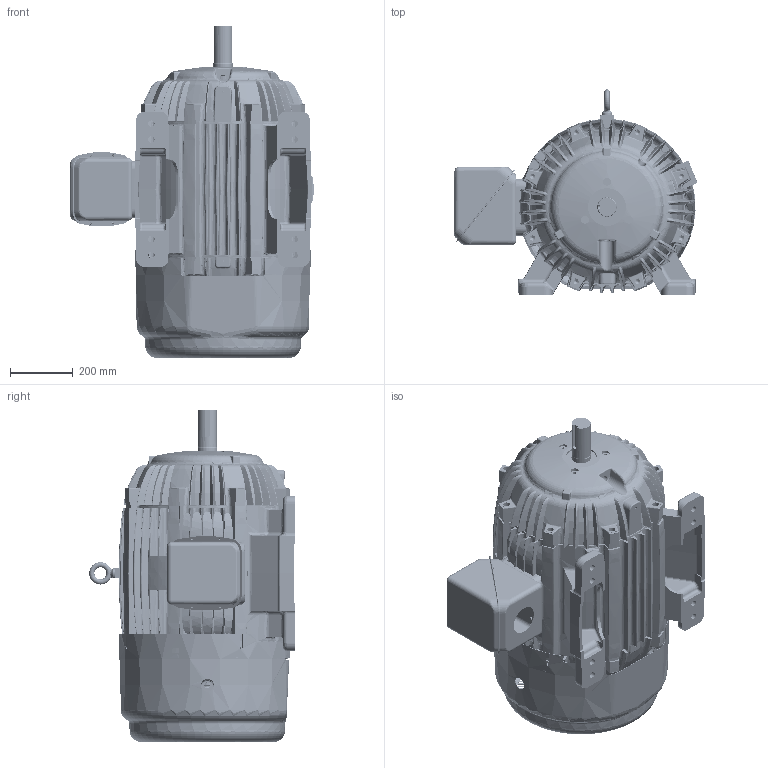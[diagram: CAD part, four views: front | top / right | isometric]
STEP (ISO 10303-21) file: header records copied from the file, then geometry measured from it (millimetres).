
FILE_DESCRIPTION((''),'2;1');
FILE_NAME('GP_ASSY_ASM','2014-03-19T',('emd2341'),('Nidec Motor Corporation'),'PRO/ENGINEER BY PARAMETRIC TECHNOLOGY CORPORATION, 2013150','PRO/ENGINEER BY PARAMETRIC TECHNOLOGY CORPORATION, 2013150','');
FILE_SCHEMA(('CONFIG_CONTROL_DESIGN'));
Products named in the file (11): 0955703; 0650196; 0132115; 0129910; 0380740; 0013350; 0177896; 0650179; 0378704; 0378705; GP_ASSY_ASM
Assembly tree (10 placements, depth 2):
  GP_ASSY_ASM
    0955703
    0650196
    0132115
    0129910
    0380740
    0013350
    0177896
    0650179
    0378704
    0378705
Bounding box: 775.71 x 656.21 x 1059.26 mm (x, y, z)
Volume: 42300307.6 mm3; surface area: 6762028.6 mm2
Topology: 12 solids, 12 shells, 6688 faces, 16316 edges, 9589 vertices
Faces by surface type: bspline 3533, plane 1006, cylinder 966, torus 559, cone 296, extrusion 242, sphere 86
Entity records: 358974 total; most frequent: CARTESIAN_POINT 228501, ORIENTED_EDGE 32394, DIRECTION 19455, EDGE_CURVE 16197, VERTEX_POINT 9589, B_SPLINE_CURVE_WITH_KNOTS 8203, AXIS2_PLACEMENT_3D 8043, EDGE_LOOP 7090
